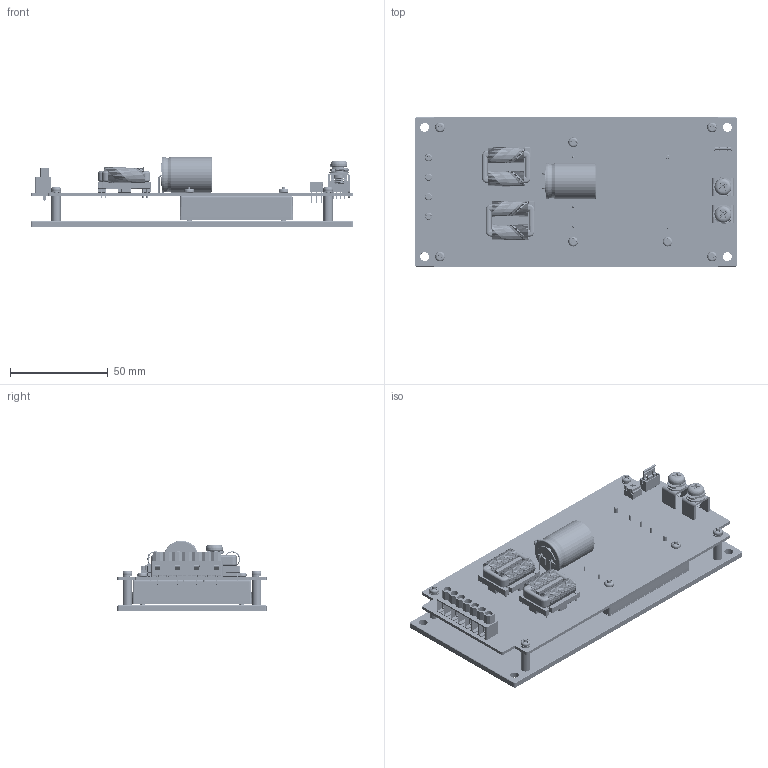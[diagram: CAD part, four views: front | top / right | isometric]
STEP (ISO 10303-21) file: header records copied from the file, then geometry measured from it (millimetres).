
FILE_DESCRIPTION (( 'STEP AP203' ), '1' );
FILE_NAME ('CHB300-300S CMFC 12V,24V,28V,48V 2024.04.17.STEP', '2024-04-26T09:10:23', ( '' ), ( '' ), 'SwSTEP 2.0', 'SolidWorks 2020', '' );
FILE_SCHEMA (( 'CONFIG_CONTROL_DESIGN' ));
Products named in the file (1): CHB300-300S CMFC 12V,24V,28V,48V 2024.04.17
Bounding box: 165 x 76.2 x 36 mm (x, y, z)
Volume: 118086.7 mm3; surface area: 89451.1 mm2
Topology: 9 solids, 35 shells, 2343 faces, 8512 edges, 5576 vertices
Faces by surface type: plane 1452, cylinder 550, bspline 140, cone 95, torus 67, sphere 39
Full cylindrical faces by diameter (mm): 0.7 x16, 0.78 x2, 0.8 x4, 1 x13, 1.2 x5, 1.5 x2, 2 x5, 2.2 x8, 2.9 x8, 3 x7, 3.2 x6, 3.239 x3, 3.25 x1, 3.264 x1, 3.8 x4, 3.9 x7, 4 x5, 4.2 x4, 4.3 x4, 4.45 x4, 4.5 x4, 4.6 x4, 4.7 x8, 5 x12, 5.3 x2, 5.5 x2, 10 x2, 12 x1, 12.8 x1, 13 x1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
Entity records: 188469 total; most frequent: CARTESIAN_POINT 122737, ORIENTED_EDGE 16122, DIRECTION 10701, EDGE_CURVE 8061, VERTEX_POINT 5423, LINE 3893, VECTOR 3893, AXIS2_PLACEMENT_3D 3404
